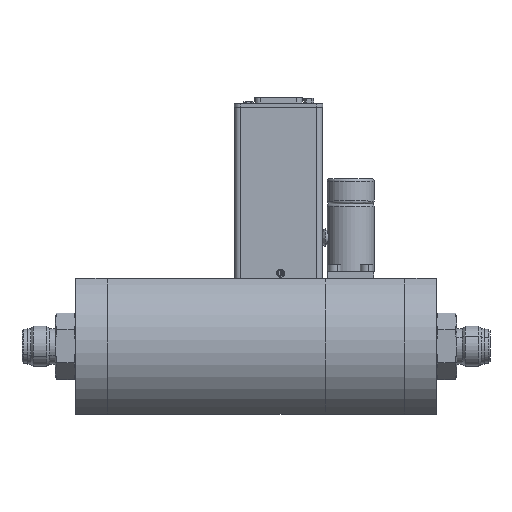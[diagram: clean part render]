
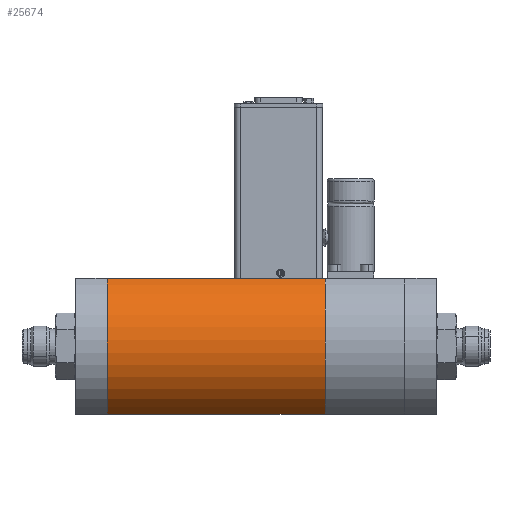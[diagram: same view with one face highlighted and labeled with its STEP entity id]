
A CAD part, top view. The second image highlights one B-rep face of the part: STEP entity #25674.
In plain terms, the highlighted cylindrical face has radius 42 mm (diameter 84 mm), a partial arc.
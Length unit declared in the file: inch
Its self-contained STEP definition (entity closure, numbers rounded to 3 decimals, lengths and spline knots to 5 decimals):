
#524 = CARTESIAN_POINT ( 'NONE',  ( -3.22441, 0., 0.77146 ) ) ;
#1521 = DIRECTION ( 'NONE',  ( 1., 0., 0. ) ) ;
#1836 = VECTOR ( 'NONE', #32447, 39.37008 ) ;
#1980 = CYLINDRICAL_SURFACE ( 'NONE', #7613, 1.65354 ) ;
#7031 = CARTESIAN_POINT ( 'NONE',  ( -3.22441, 0., 0.77146 ) ) ;
#7089 = VERTEX_POINT ( 'NONE', #7472 ) ;
#7235 = CIRCLE ( 'NONE', #24220, 1.65354 ) ;
#7333 = AXIS2_PLACEMENT_3D ( 'NONE', #13800, #9852, #31602 ) ;
#7472 = CARTESIAN_POINT ( 'NONE',  ( 1.5, 0., 0.77146 ) ) ;
#7613 = AXIS2_PLACEMENT_3D ( 'NONE', #19099, #1521, #30394 ) ;
#8699 = FACE_OUTER_BOUND ( 'NONE', #42749, .T. ) ;
#9852 = DIRECTION ( 'NONE',  ( -1., 0., 0. ) ) ;
#10358 = CARTESIAN_POINT ( 'NONE',  ( 1.5, 2.93701, 0.77146 ) ) ;
#11636 = LINE ( 'NONE', #25722, #12272 ) ;
#12272 = VECTOR ( 'NONE', #39817, 39.37008 ) ;
#13787 = ORIENTED_EDGE ( 'NONE', *, *, #29932, .T. ) ;
#13800 = CARTESIAN_POINT ( 'NONE',  ( -3.22441, 1.4685, 0.01139 ) ) ;
#13983 = VERTEX_POINT ( 'NONE', #10358 ) ;
#15025 = CARTESIAN_POINT ( 'NONE',  ( -3.22441, 2.93701, 0.77146 ) ) ;
#16750 = DIRECTION ( 'NONE',  ( -1., 0., 0. ) ) ;
#16890 = CIRCLE ( 'NONE', #7333, 1.65354 ) ;
#18237 = VERTEX_POINT ( 'NONE', #524 ) ;
#19099 = CARTESIAN_POINT ( 'NONE',  ( -3.22441, 1.4685, 0.01139 ) ) ;
#20802 = VERTEX_POINT ( 'NONE', #15025 ) ;
#23884 = DIRECTION ( 'NONE',  ( 0., 1., 0. ) ) ;
#24220 = AXIS2_PLACEMENT_3D ( 'NONE', #26043, #16750, #23884 ) ;
#24223 = EDGE_CURVE ( 'NONE', #7089, #13983, #7235, .T. ) ;
#25275 = ORIENTED_EDGE ( 'NONE', *, *, #25318, .F. ) ;
#25318 = EDGE_CURVE ( 'NONE', #18237, #20802, #16890, .T. ) ;
#25674 = ADVANCED_FACE ( 'NONE', ( #8699 ), #1980, .T. ) ;
#25722 = CARTESIAN_POINT ( 'NONE',  ( -13.22441, 2.93701, 0.77146 ) ) ;
#26043 = CARTESIAN_POINT ( 'NONE',  ( 1.5, 1.4685, 0.01139 ) ) ;
#26685 = ORIENTED_EDGE ( 'NONE', *, *, #40661, .T. ) ;
#26980 = ORIENTED_EDGE ( 'NONE', *, *, #24223, .T. ) ;
#29932 = EDGE_CURVE ( 'NONE', #13983, #20802, #11636, .T. ) ;
#30394 = DIRECTION ( 'NONE',  ( 0., 1., 0. ) ) ;
#31602 = DIRECTION ( 'NONE',  ( 0., 1., 0. ) ) ;
#32447 = DIRECTION ( 'NONE',  ( 1., 0., 0. ) ) ;
#38689 = LINE ( 'NONE', #7031, #1836 ) ;
#39817 = DIRECTION ( 'NONE',  ( -1., 0., 0. ) ) ;
#40661 = EDGE_CURVE ( 'NONE', #18237, #7089, #38689, .T. ) ;
#42749 = EDGE_LOOP ( 'NONE', ( #13787, #25275, #26685, #26980 ) ) ;
